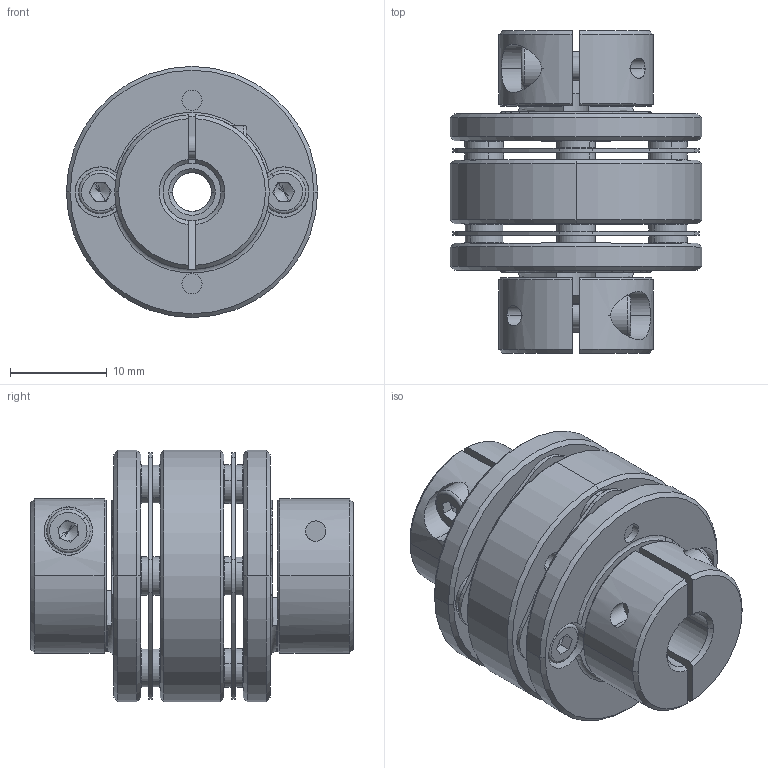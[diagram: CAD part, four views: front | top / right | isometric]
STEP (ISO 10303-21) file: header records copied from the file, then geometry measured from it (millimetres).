
FILE_DESCRIPTION (( 'STEP AP203' ), '1' );
FILE_NAME ('LE2-B-D26L35-4-6.STEP', '2021-11-01T05:42:01', ( '' ), ( '' ), 'SwSTEP 2.0', 'SolidWorks 2018', '' );
FILE_SCHEMA (( 'CONFIG_CONTROL_DESIGN' ));
Length unit declared in the file: millimetre
Products named in the file (1): LE2-B-D26L35-4-6
Bounding box: 26 x 33.4 x 26 mm (x, y, z)
Volume: 7974.5 mm3; surface area: 8431.1 mm2
Topology: 1 solids, 19 shells, 672 faces, 1560 edges, 938 vertices
Faces by surface type: cylinder 228, plane 218, cone 202, torus 24
Entity records: 19397 total; most frequent: DIRECTION 3628, CARTESIAN_POINT 3493, ORIENTED_EDGE 3080, EDGE_CURVE 1540, AXIS2_PLACEMENT_3D 1467, VERTEX_POINT 938, CIRCLE 794, EDGE_LOOP 782
